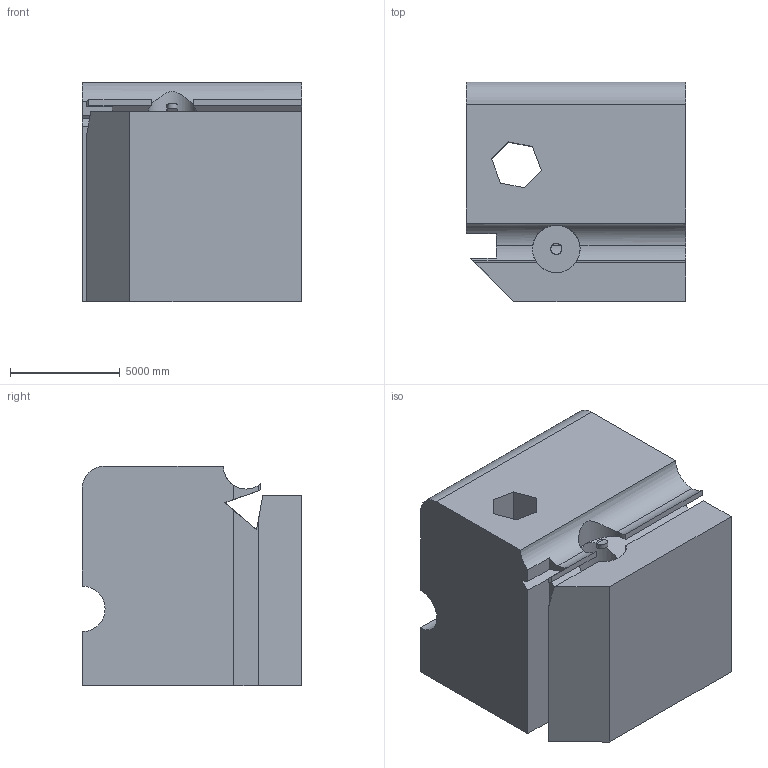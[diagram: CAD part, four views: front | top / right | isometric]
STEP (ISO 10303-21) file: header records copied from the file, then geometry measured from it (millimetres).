
FILE_DESCRIPTION (( 'STEP AP203' ), '1' );
FILE_NAME ('1912.STEP', '2022-08-25T16:45:34', ( 'user' ), ( '' ), 'SwSTEP 2.0', 'SolidWorks 2021', '' );
FILE_SCHEMA (( 'CONFIG_CONTROL_DESIGN' ));
Length unit declared in the file: centimetre
Products named in the file (1): 1912
Bounding box: 10000 x 10000 x 10000 mm (x, y, z)
Volume: 831535625767.2 mm3; surface area: 760132875.9 mm2
Topology: 2 solids, 2 shells, 53 faces, 138 edges, 92 vertices
Faces by surface type: plane 33, cylinder 20
Entity records: 2113 total; most frequent: CARTESIAN_POINT 761, ORIENTED_EDGE 276, DIRECTION 246, EDGE_CURVE 138, VECTOR 94, LINE 94, VERTEX_POINT 92, AXIS2_PLACEMENT_3D 76
